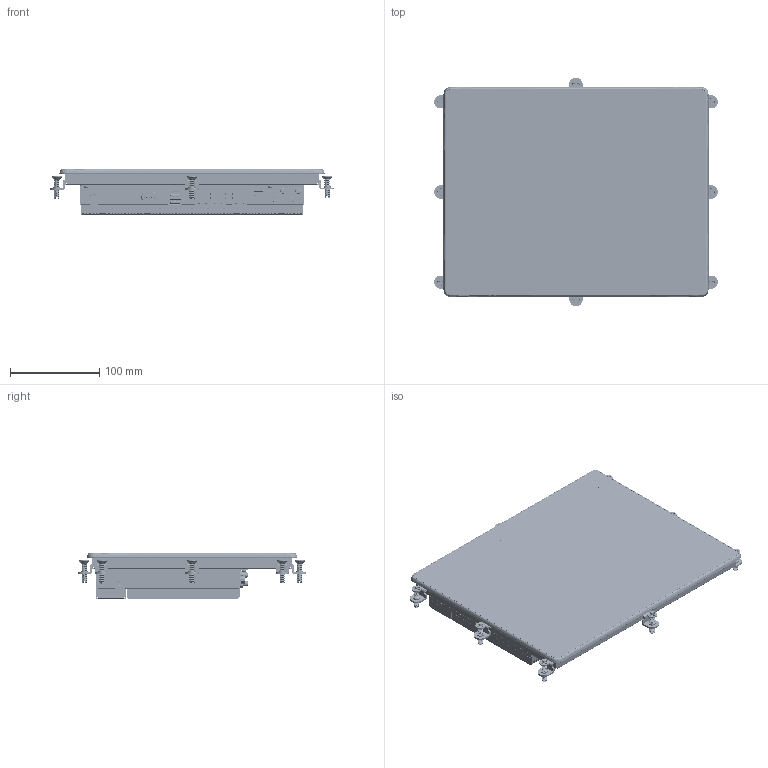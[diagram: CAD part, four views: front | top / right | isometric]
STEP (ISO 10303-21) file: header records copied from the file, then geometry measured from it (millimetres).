
FILE_DESCRIPTION((''),'2;1');
FILE_NAME('NP4C-121','2026-06-02T10:17:46',('gijyu181'),(''),'CREO PARAMETRIC BY PTC INC, 2018050','CREO PARAMETRIC BY PTC INC, 2018050','');
FILE_SCHEMA(('CONFIG_CONTROL_DESIGN','SHAPE_APPEARANCE_LAYERS_GROUPS'));
Products named in the file (1): NP4C-121
Bounding box: 317.6 x 256.1 x 50.9 mm (x, y, z)
Volume: 1598723.6 mm3; surface area: 769628.8 mm2
Topology: 30 solids, 116 shells, 28153 faces, 79407 edges, 52306 vertices
Faces by surface type: plane 19151, cylinder 6303, extrusion 1414, cone 559, bspline 381, torus 180, sphere 149, revolution 16
Entity records: 1108906 total; most frequent: CARTESIAN_POINT 250940, ORIENTED_EDGE 157795, DIRECTION 140344, EDGE_CURVE 79325, VECTOR 61584, LINE 60170, VERTEX_POINT 52307, AXIS2_PLACEMENT_3D 39372
